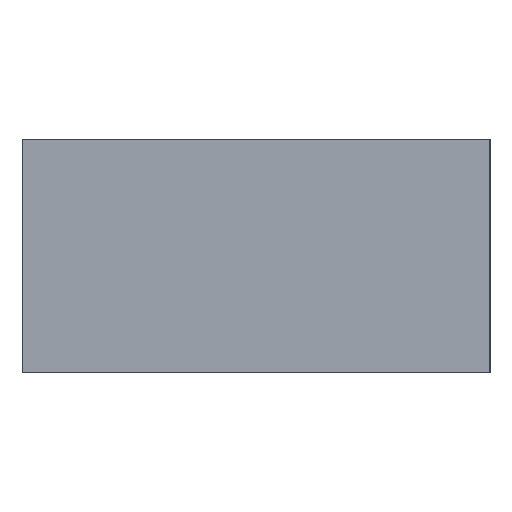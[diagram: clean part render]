
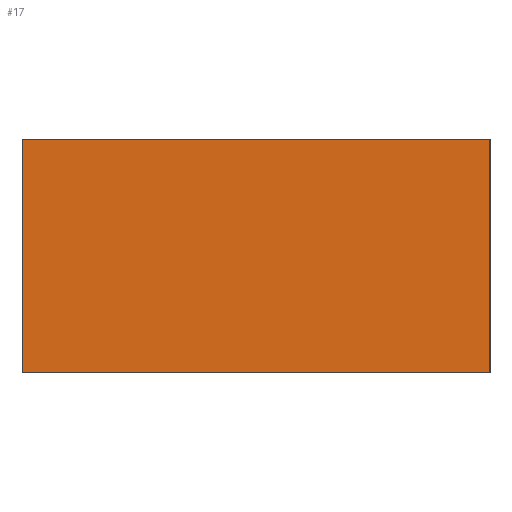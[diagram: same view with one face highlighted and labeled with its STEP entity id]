
A CAD part, left-side view. The second image highlights one B-rep face of the part: STEP entity #17.
In plain terms, the highlighted planar face has unit normal (-1, 0, 0).
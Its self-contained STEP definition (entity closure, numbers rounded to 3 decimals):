
#17 = ADVANCED_FACE('',(#18),#32,.F.);
#18 = FACE_BOUND('',#19,.F.);
#19 = EDGE_LOOP('',(#20,#55,#83,#111));
#20 = ORIENTED_EDGE('',*,*,#21,.F.);
#21 = EDGE_CURVE('',#22,#24,#26,.T.);
#22 = VERTEX_POINT('',#23);
#23 = CARTESIAN_POINT('',(0.,0.,0.));
#24 = VERTEX_POINT('',#25);
#25 = CARTESIAN_POINT('',(0.,0.,101.6));
#26 = SURFACE_CURVE('',#27,(#31,#43),.PCURVE_S1.);
#27 = LINE('',#28,#29);
#28 = CARTESIAN_POINT('',(0.,0.,0.));
#29 = VECTOR('',#30,1.);
#30 = DIRECTION('',(0.,0.,1.));
#31 = PCURVE('',#32,#37);
#32 = PLANE('',#33);
#33 = AXIS2_PLACEMENT_3D('',#34,#35,#36);
#34 = CARTESIAN_POINT('',(0.,0.,0.));
#35 = DIRECTION('',(1.,0.,0.));
#36 = DIRECTION('',(0.,0.,1.));
#37 = DEFINITIONAL_REPRESENTATION('',(#38),#42);
#38 = LINE('',#39,#40);
#39 = CARTESIAN_POINT('',(0.,0.));
#40 = VECTOR('',#41,1.);
#41 = DIRECTION('',(1.,0.));
#42 = ( GEOMETRIC_REPRESENTATION_CONTEXT(2) 
PARAMETRIC_REPRESENTATION_CONTEXT() REPRESENTATION_CONTEXT('2D SPACE',''
  ) );
#43 = PCURVE('',#44,#49);
#44 = PLANE('',#45);
#45 = AXIS2_PLACEMENT_3D('',#46,#47,#48);
#46 = CARTESIAN_POINT('',(0.,0.,0.));
#47 = DIRECTION('',(0.,1.,0.));
#48 = DIRECTION('',(0.,0.,1.));
#49 = DEFINITIONAL_REPRESENTATION('',(#50),#54);
#50 = LINE('',#51,#52);
#51 = CARTESIAN_POINT('',(0.,0.));
#52 = VECTOR('',#53,1.);
#53 = DIRECTION('',(1.,0.));
#54 = ( GEOMETRIC_REPRESENTATION_CONTEXT(2) 
PARAMETRIC_REPRESENTATION_CONTEXT() REPRESENTATION_CONTEXT('2D SPACE',''
  ) );
#55 = ORIENTED_EDGE('',*,*,#56,.T.);
#56 = EDGE_CURVE('',#22,#57,#59,.T.);
#57 = VERTEX_POINT('',#58);
#58 = CARTESIAN_POINT('',(0.,203.2,0.));
#59 = SURFACE_CURVE('',#60,(#64,#71),.PCURVE_S1.);
#60 = LINE('',#61,#62);
#61 = CARTESIAN_POINT('',(0.,0.,0.));
#62 = VECTOR('',#63,1.);
#63 = DIRECTION('',(0.,1.,0.));
#64 = PCURVE('',#32,#65);
#65 = DEFINITIONAL_REPRESENTATION('',(#66),#70);
#66 = LINE('',#67,#68);
#67 = CARTESIAN_POINT('',(0.,0.));
#68 = VECTOR('',#69,1.);
#69 = DIRECTION('',(0.,-1.));
#70 = ( GEOMETRIC_REPRESENTATION_CONTEXT(2) 
PARAMETRIC_REPRESENTATION_CONTEXT() REPRESENTATION_CONTEXT('2D SPACE',''
  ) );
#71 = PCURVE('',#72,#77);
#72 = PLANE('',#73);
#73 = AXIS2_PLACEMENT_3D('',#74,#75,#76);
#74 = CARTESIAN_POINT('',(0.,0.,0.));
#75 = DIRECTION('',(0.,0.,1.));
#76 = DIRECTION('',(1.,0.,0.));
#77 = DEFINITIONAL_REPRESENTATION('',(#78),#82);
#78 = LINE('',#79,#80);
#79 = CARTESIAN_POINT('',(0.,0.));
#80 = VECTOR('',#81,1.);
#81 = DIRECTION('',(0.,1.));
#82 = ( GEOMETRIC_REPRESENTATION_CONTEXT(2) 
PARAMETRIC_REPRESENTATION_CONTEXT() REPRESENTATION_CONTEXT('2D SPACE',''
  ) );
#83 = ORIENTED_EDGE('',*,*,#84,.T.);
#84 = EDGE_CURVE('',#57,#85,#87,.T.);
#85 = VERTEX_POINT('',#86);
#86 = CARTESIAN_POINT('',(0.,203.2,101.6));
#87 = SURFACE_CURVE('',#88,(#92,#99),.PCURVE_S1.);
#88 = LINE('',#89,#90);
#89 = CARTESIAN_POINT('',(0.,203.2,0.));
#90 = VECTOR('',#91,1.);
#91 = DIRECTION('',(0.,0.,1.));
#92 = PCURVE('',#32,#93);
#93 = DEFINITIONAL_REPRESENTATION('',(#94),#98);
#94 = LINE('',#95,#96);
#95 = CARTESIAN_POINT('',(0.,-203.2));
#96 = VECTOR('',#97,1.);
#97 = DIRECTION('',(1.,0.));
#98 = ( GEOMETRIC_REPRESENTATION_CONTEXT(2) 
PARAMETRIC_REPRESENTATION_CONTEXT() REPRESENTATION_CONTEXT('2D SPACE',''
  ) );
#99 = PCURVE('',#100,#105);
#100 = PLANE('',#101);
#101 = AXIS2_PLACEMENT_3D('',#102,#103,#104);
#102 = CARTESIAN_POINT('',(0.,203.2,0.));
#103 = DIRECTION('',(0.,1.,0.));
#104 = DIRECTION('',(0.,0.,1.));
#105 = DEFINITIONAL_REPRESENTATION('',(#106),#110);
#106 = LINE('',#107,#108);
#107 = CARTESIAN_POINT('',(0.,0.));
#108 = VECTOR('',#109,1.);
#109 = DIRECTION('',(1.,0.));
#110 = ( GEOMETRIC_REPRESENTATION_CONTEXT(2) 
PARAMETRIC_REPRESENTATION_CONTEXT() REPRESENTATION_CONTEXT('2D SPACE',''
  ) );
#111 = ORIENTED_EDGE('',*,*,#112,.F.);
#112 = EDGE_CURVE('',#24,#85,#113,.T.);
#113 = SURFACE_CURVE('',#114,(#118,#125),.PCURVE_S1.);
#114 = LINE('',#115,#116);
#115 = CARTESIAN_POINT('',(0.,0.,101.6));
#116 = VECTOR('',#117,1.);
#117 = DIRECTION('',(0.,1.,0.));
#118 = PCURVE('',#32,#119);
#119 = DEFINITIONAL_REPRESENTATION('',(#120),#124);
#120 = LINE('',#121,#122);
#121 = CARTESIAN_POINT('',(101.6,0.));
#122 = VECTOR('',#123,1.);
#123 = DIRECTION('',(0.,-1.));
#124 = ( GEOMETRIC_REPRESENTATION_CONTEXT(2) 
PARAMETRIC_REPRESENTATION_CONTEXT() REPRESENTATION_CONTEXT('2D SPACE',''
  ) );
#125 = PCURVE('',#126,#131);
#126 = PLANE('',#127);
#127 = AXIS2_PLACEMENT_3D('',#128,#129,#130);
#128 = CARTESIAN_POINT('',(0.,0.,101.6));
#129 = DIRECTION('',(0.,0.,1.));
#130 = DIRECTION('',(1.,0.,0.));
#131 = DEFINITIONAL_REPRESENTATION('',(#132),#136);
#132 = LINE('',#133,#134);
#133 = CARTESIAN_POINT('',(0.,0.));
#134 = VECTOR('',#135,1.);
#135 = DIRECTION('',(0.,1.));
#136 = ( GEOMETRIC_REPRESENTATION_CONTEXT(2) 
PARAMETRIC_REPRESENTATION_CONTEXT() REPRESENTATION_CONTEXT('2D SPACE',''
  ) );
